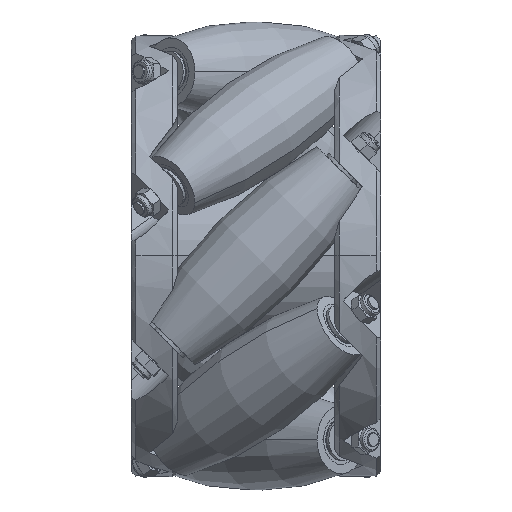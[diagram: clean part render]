
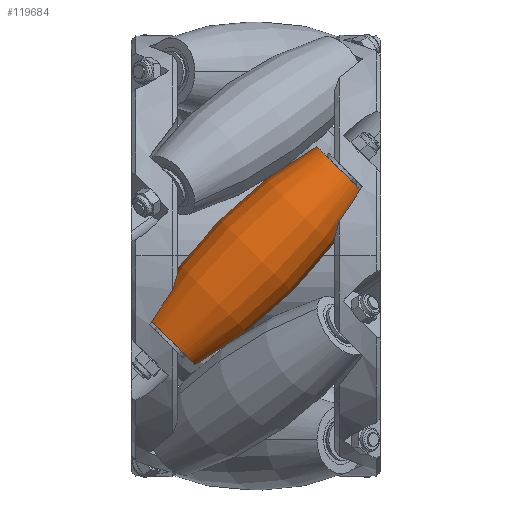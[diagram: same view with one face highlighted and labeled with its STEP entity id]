
A CAD part, top view. The second image highlights one B-rep face of the part: STEP entity #119684.
In plain terms, the highlighted face is a revolution surface.
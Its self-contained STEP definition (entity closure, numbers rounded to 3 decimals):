
#119573 = PLANE('',#119574);
#119574 = AXIS2_PLACEMENT_3D('',#119575,#119576,#119577);
#119575 = CARTESIAN_POINT('',(-18.385,18.385,-45.13));
#119576 = DIRECTION('',(0.707,-0.707,
    0.));
#119577 = DIRECTION('',(0.707,0.707,0.
    ));
#119614 = VERTEX_POINT('',#119615);
#119615 = CARTESIAN_POINT('',(-13.198,23.571,-39.8));
#119616 = VERTEX_POINT('',#119617);
#119617 = CARTESIAN_POINT('',(-23.571,13.198,-39.8));
#119632 = SURFACE_OF_REVOLUTION('',#119633,#119641);
#119633 = B_SPLINE_CURVE_WITH_KNOTS('',6,(#119634,#119635,#119636,
    #119637,#119638,#119639,#119640),.UNSPECIFIED.,.F.,.F.,(7,7),(
    2.861,3.422),.PIECEWISE_BEZIER_KNOTS.);
#119634 = CARTESIAN_POINT('',(-23.571,13.198,-39.8));
#119635 = CARTESIAN_POINT('',(-19.322,5.514,-39.8));
#119636 = CARTESIAN_POINT('',(-14.211,-1.694,-39.8));
#119637 = CARTESIAN_POINT('',(-8.305,-8.305,-39.8));
#119638 = CARTESIAN_POINT('',(-1.694,-14.211,-39.8));
#119639 = CARTESIAN_POINT('',(5.514,-19.322,-39.8));
#119640 = CARTESIAN_POINT('',(13.198,-23.571,-39.8));
#119641 = AXIS1_PLACEMENT('',#119642,#119643);
#119642 = CARTESIAN_POINT('',(0.,0.,-39.8
    ));
#119643 = DIRECTION('',(-0.707,0.707,
    0.));
#119651 = EDGE_CURVE('',#119616,#119614,#119652,.T.);
#119652 = SURFACE_CURVE('',#119653,(#119658,#119665),.PCURVE_S1.);
#119653 = CIRCLE('',#119654,7.335);
#119654 = AXIS2_PLACEMENT_3D('',#119655,#119656,#119657);
#119655 = CARTESIAN_POINT('',(-18.385,18.385,-39.8));
#119656 = DIRECTION('',(0.707,-0.707,
    0.));
#119657 = DIRECTION('',(0.707,0.707,0.
    ));
#119658 = PCURVE('',#119573,#119659);
#119659 = DEFINITIONAL_REPRESENTATION('',(#119660),#119664);
#119660 = CIRCLE('',#119661,7.335);
#119661 = AXIS2_PLACEMENT_2D('',#119662,#119663);
#119662 = CARTESIAN_POINT('',(0.,5.33));
#119663 = DIRECTION('',(1.,-0.));
#119664 = ( GEOMETRIC_REPRESENTATION_CONTEXT(2) 
PARAMETRIC_REPRESENTATION_CONTEXT() REPRESENTATION_CONTEXT('2D SPACE',''
  ) );
#119665 = PCURVE('',#119666,#119678);
#119666 = SURFACE_OF_REVOLUTION('',#119667,#119675);
#119667 = B_SPLINE_CURVE_WITH_KNOTS('',6,(#119668,#119669,#119670,
    #119671,#119672,#119673,#119674),.UNSPECIFIED.,.F.,.F.,(7,7),(
    2.861,3.422),.PIECEWISE_BEZIER_KNOTS.);
#119668 = CARTESIAN_POINT('',(-23.571,13.198,-39.8));
#119669 = CARTESIAN_POINT('',(-19.322,5.514,-39.8));
#119670 = CARTESIAN_POINT('',(-14.211,-1.694,-39.8));
#119671 = CARTESIAN_POINT('',(-8.305,-8.305,-39.8));
#119672 = CARTESIAN_POINT('',(-1.694,-14.211,-39.8));
#119673 = CARTESIAN_POINT('',(5.514,-19.322,-39.8));
#119674 = CARTESIAN_POINT('',(13.198,-23.571,-39.8));
#119675 = AXIS1_PLACEMENT('',#119676,#119677);
#119676 = CARTESIAN_POINT('',(0.,0.,-39.8
    ));
#119677 = DIRECTION('',(-0.707,0.707,
    0.));
#119678 = DEFINITIONAL_REPRESENTATION('',(#119679),#119683);
#119679 = LINE('',#119680,#119681);
#119680 = CARTESIAN_POINT('',(3.142,2.861));
#119681 = VECTOR('',#119682,1.);
#119682 = DIRECTION('',(-1.,0.));
#119683 = ( GEOMETRIC_REPRESENTATION_CONTEXT(2) 
PARAMETRIC_REPRESENTATION_CONTEXT() REPRESENTATION_CONTEXT('2D SPACE',''
  ) );
#119684 = ADVANCED_FACE('',(#119685),#119666,.F.);
#119685 = FACE_BOUND('',#119686,.T.);
#119686 = EDGE_LOOP('',(#119687,#119688,#119712,#119745));
#119687 = ORIENTED_EDGE('',*,*,#119651,.T.);
#119688 = ORIENTED_EDGE('',*,*,#119689,.F.);
#119689 = EDGE_CURVE('',#119690,#119614,#119692,.T.);
#119690 = VERTEX_POINT('',#119691);
#119691 = CARTESIAN_POINT('',(23.571,-13.198,-39.8));
#119692 = SURFACE_CURVE('',#119693,(#119698,#119705),.PCURVE_S1.);
#119693 = CIRCLE('',#119694,94.);
#119694 = AXIS2_PLACEMENT_3D('',#119695,#119696,#119697);
#119695 = CARTESIAN_POINT('',(-58.688,-58.688,-39.8));
#119696 = DIRECTION('',(0.,0.,1.));
#119697 = DIRECTION('',(-1.,-0.,-0.));
#119698 = PCURVE('',#119666,#119699);
#119699 = DEFINITIONAL_REPRESENTATION('',(#119700),#119704);
#119700 = LINE('',#119701,#119702);
#119701 = CARTESIAN_POINT('',(-3.142,7.069));
#119702 = VECTOR('',#119703,1.);
#119703 = DIRECTION('',(-0.,-1.));
#119704 = ( GEOMETRIC_REPRESENTATION_CONTEXT(2) 
PARAMETRIC_REPRESENTATION_CONTEXT() REPRESENTATION_CONTEXT('2D SPACE',''
  ) );
#119705 = PCURVE('',#119632,#119706);
#119706 = DEFINITIONAL_REPRESENTATION('',(#119707),#119711);
#119707 = LINE('',#119708,#119709);
#119708 = CARTESIAN_POINT('',(-3.142,7.069));
#119709 = VECTOR('',#119710,1.);
#119710 = DIRECTION('',(-0.,-1.));
#119711 = ( GEOMETRIC_REPRESENTATION_CONTEXT(2) 
PARAMETRIC_REPRESENTATION_CONTEXT() REPRESENTATION_CONTEXT('2D SPACE',''
  ) );
#119712 = ORIENTED_EDGE('',*,*,#119713,.F.);
#119713 = EDGE_CURVE('',#119714,#119690,#119716,.T.);
#119714 = VERTEX_POINT('',#119715);
#119715 = CARTESIAN_POINT('',(13.198,-23.571,-39.8));
#119716 = SURFACE_CURVE('',#119717,(#119722,#119729),.PCURVE_S1.);
#119717 = CIRCLE('',#119718,7.335);
#119718 = AXIS2_PLACEMENT_3D('',#119719,#119720,#119721);
#119719 = CARTESIAN_POINT('',(18.385,-18.385,-39.8));
#119720 = DIRECTION('',(0.707,-0.707,
    0.));
#119721 = DIRECTION('',(0.707,0.707,0.
    ));
#119722 = PCURVE('',#119666,#119723);
#119723 = DEFINITIONAL_REPRESENTATION('',(#119724),#119728);
#119724 = LINE('',#119725,#119726);
#119725 = CARTESIAN_POINT('',(3.142,3.422));
#119726 = VECTOR('',#119727,1.);
#119727 = DIRECTION('',(-1.,0.));
#119728 = ( GEOMETRIC_REPRESENTATION_CONTEXT(2) 
PARAMETRIC_REPRESENTATION_CONTEXT() REPRESENTATION_CONTEXT('2D SPACE',''
  ) );
#119729 = PCURVE('',#119730,#119735);
#119730 = PLANE('',#119731);
#119731 = AXIS2_PLACEMENT_3D('',#119732,#119733,#119734);
#119732 = CARTESIAN_POINT('',(18.385,-18.385,-45.13));
#119733 = DIRECTION('',(-0.707,0.707,
    0.));
#119734 = DIRECTION('',(-0.707,-0.707,
    0.));
#119735 = DEFINITIONAL_REPRESENTATION('',(#119736),#119744);
#119736 = ( BOUNDED_CURVE() B_SPLINE_CURVE(2,(#119737,#119738,#119739,
    #119740,#119741,#119742,#119743),.UNSPECIFIED.,.T.,.F.) 
B_SPLINE_CURVE_WITH_KNOTS((1,2,2,2,2,1),(-2.094,0.,
    2.094,4.189,6.283,8.378),
.UNSPECIFIED.) CURVE() GEOMETRIC_REPRESENTATION_ITEM() 
RATIONAL_B_SPLINE_CURVE((1.,0.5,1.,0.5,1.,0.5,1.)) REPRESENTATION_ITEM(
  '') );
#119737 = CARTESIAN_POINT('',(-7.335,5.33));
#119738 = CARTESIAN_POINT('',(-7.335,18.035));
#119739 = CARTESIAN_POINT('',(3.668,11.682));
#119740 = CARTESIAN_POINT('',(14.67,5.33));
#119741 = CARTESIAN_POINT('',(3.668,-1.022));
#119742 = CARTESIAN_POINT('',(-7.335,-7.375));
#119743 = CARTESIAN_POINT('',(-7.335,5.33));
#119744 = ( GEOMETRIC_REPRESENTATION_CONTEXT(2) 
PARAMETRIC_REPRESENTATION_CONTEXT() REPRESENTATION_CONTEXT('2D SPACE',''
  ) );
#119745 = ORIENTED_EDGE('',*,*,#119746,.T.);
#119746 = EDGE_CURVE('',#119714,#119616,#119747,.T.);
#119747 = SURFACE_CURVE('',#119748,(#119753,#119760),.PCURVE_S1.);
#119748 = CIRCLE('',#119749,94.);
#119749 = AXIS2_PLACEMENT_3D('',#119750,#119751,#119752);
#119750 = CARTESIAN_POINT('',(58.688,58.688,
    -39.8));
#119751 = DIRECTION('',(0.,0.,-1.));
#119752 = DIRECTION('',(0.,1.,0.));
#119753 = PCURVE('',#119666,#119754);
#119754 = DEFINITIONAL_REPRESENTATION('',(#119755),#119759);
#119755 = LINE('',#119756,#119757);
#119756 = CARTESIAN_POINT('',(-0.,7.069));
#119757 = VECTOR('',#119758,1.);
#119758 = DIRECTION('',(-0.,-1.));
#119759 = ( GEOMETRIC_REPRESENTATION_CONTEXT(2) 
PARAMETRIC_REPRESENTATION_CONTEXT() REPRESENTATION_CONTEXT('2D SPACE',''
  ) );
#119760 = PCURVE('',#119632,#119761);
#119761 = DEFINITIONAL_REPRESENTATION('',(#119762),#119766);
#119762 = LINE('',#119763,#119764);
#119763 = CARTESIAN_POINT('',(-6.283,7.069));
#119764 = VECTOR('',#119765,1.);
#119765 = DIRECTION('',(-0.,-1.));
#119766 = ( GEOMETRIC_REPRESENTATION_CONTEXT(2) 
PARAMETRIC_REPRESENTATION_CONTEXT() REPRESENTATION_CONTEXT('2D SPACE',''
  ) );
